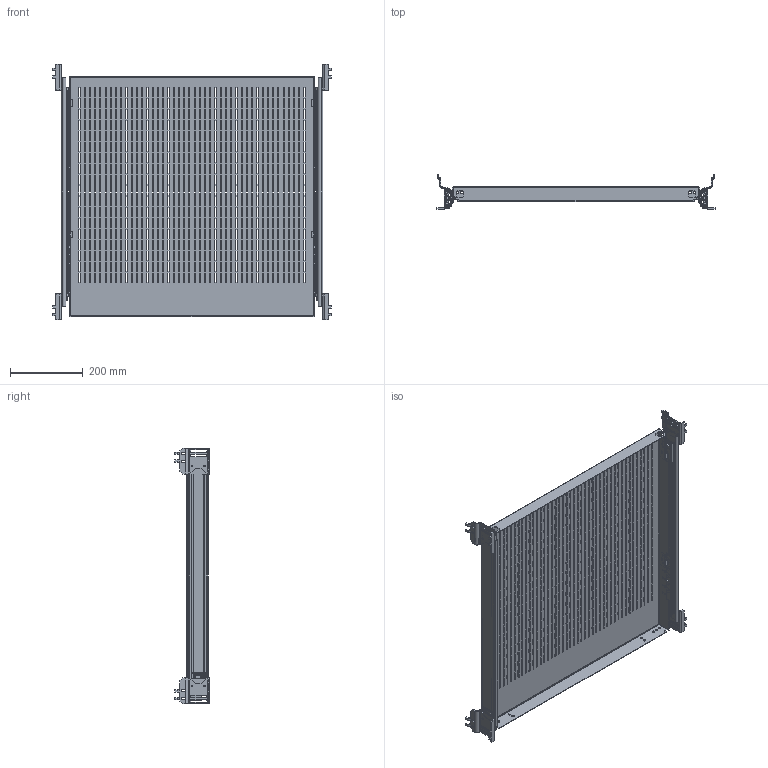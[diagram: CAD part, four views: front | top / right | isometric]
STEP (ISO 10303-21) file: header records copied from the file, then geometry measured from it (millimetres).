
FILE_DESCRIPTION (( 'STEP AP203' ), '1' );
FILE_NAME ('16211.step', '2013-04-15T10:04:46', ( '' ), ( '' ), 'SwSTEP 2.0', 'SolidWorks 2010', '' );
FILE_SCHEMA (( 'CONFIG_CONTROL_DESIGN' ));
Products named in the file (11): 89058545_FLEX; 89058544_FLEXIBLE; 89058531; 89058532; 87932506_TRAPAZIOD CUT; 87932518_87932518; 87920001; 89058533; 87932508_TRAPAZOID CUT; 21127183_FLEX; 16211
Assembly tree (18 placements, depth 4):
  16211
    87920001
    21127183_FLEX
      89058545_FLEX
        87932508_TRAPAZOID CUT
        89058531
        89058532
        89058533
        87932518_87932518  x2
        87932506_TRAPAZIOD CUT
      89058544_FLEXIBLE
        89058532
        89058531
        87932518_87932518  x2
        89058533
        87932506_TRAPAZIOD CUT
        87932508_TRAPAZOID CUT
Bounding box: 765.98 x 95 x 704 mm (x, y, z)
Volume: 1174135.9 mm3; surface area: 1557579.5 mm2
Topology: 21 solids, 21 shells, 4712 faces, 13292 edges, 8660 vertices
Faces by surface type: plane 4200, cylinder 424, sphere 64, bspline 12, cone 12
Entity records: 135667 total; most frequent: CARTESIAN_POINT 24048, ORIENTED_EDGE 23408, DIRECTION 20352, EDGE_CURVE 11704, VECTOR 11108, LINE 11108, VERTEX_POINT 7698, EDGE_LOOP 5774
